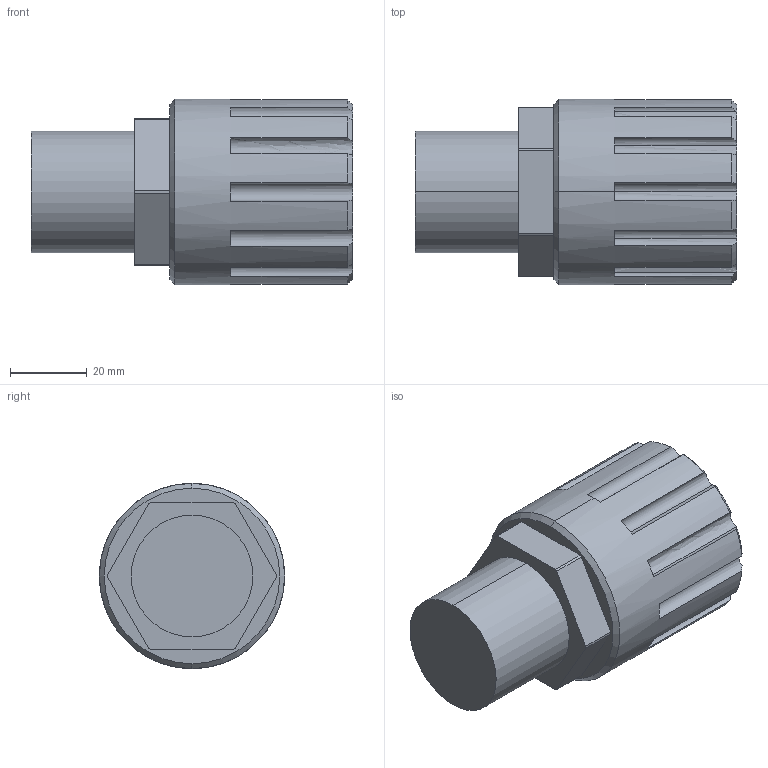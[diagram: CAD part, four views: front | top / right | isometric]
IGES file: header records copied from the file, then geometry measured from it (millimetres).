
Start section: SolidWorks IGES file using analytic representation for surfaces
Global section: file name: S:\Product Visuals\Defeatured Models\Parts Library\Liquid Fittings\Front Mount liquid Fittings\Flaretek Compatible\60LPM\Fitting Flaretek Compatible 20.IGS; native system: SolidWorks 2012; preprocessor: SolidWorks 2012; author: rachel.dressel; date: 120921.132621; units: inch
Bounding box: 83.69 x 48.26 x 48.26 mm (x, y, z)
Volume: 107674.6 mm3; surface area: 16847.1 mm2
Topology: 1 solids, 1 shells, 66 faces, 181 edges, 120 vertices
Faces by surface type: revolution 43, plane 23
